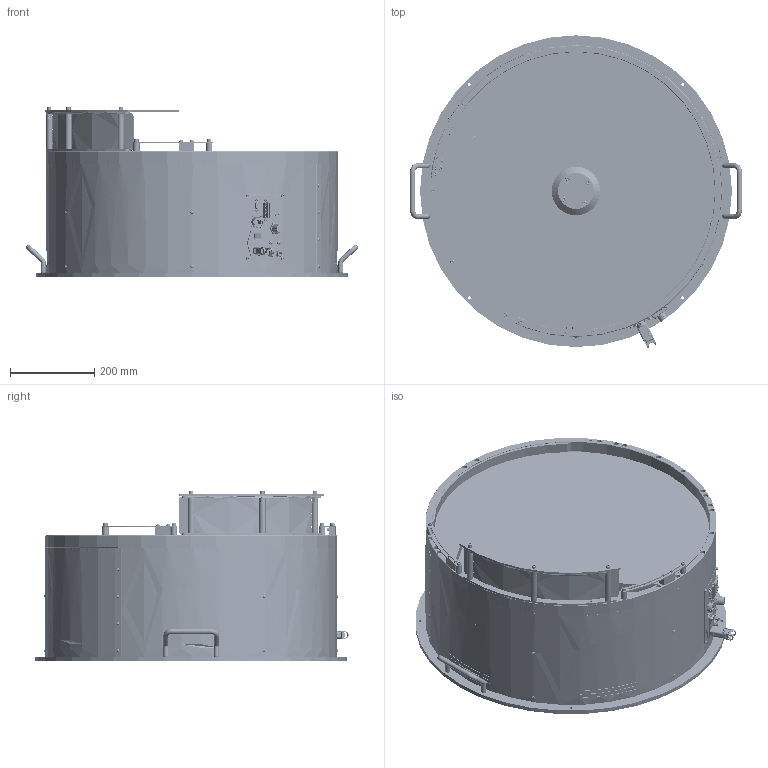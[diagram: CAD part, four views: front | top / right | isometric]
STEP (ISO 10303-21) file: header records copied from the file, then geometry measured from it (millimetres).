
FILE_DESCRIPTION (( 'STEP AP214' ), '1' );
FILE_NAME ('GM000215_FB650C V2.2.STEP', '2023-09-18T15:30:00', ( '' ), ( '' ), 'SwSTEP 2.0', 'SolidWorks 2022', '' );
FILE_SCHEMA (( 'AUTOMOTIVE_DESIGN' ));
Length unit declared in the file: millimetre
Products named in the file (89): PD006078; CM000037; PD001120; CM000050; CM000001; Copia di CE000325^CE000461; PD001356; CE000005; CE000327; Copia di 43025-1600^CE000463; PD006074; CM000170; CM000642; CE000276; Copia di connector_a-ds_25_pp-f^CE000463; PD001654; CM000025; PD000043; CE000078; Copia di 43025-0600^CE000461; CM000686_001; PD005831; PD001103; Copia di 39-01-2045^CE000326; CM000008_002; CM000044; CE000322; PD006076; CM000686_002; CM000027; CM000919; PD006077; CM000086; CM000941; CM000039; GM000215_FB650C V2.2; PD001102; CM000099; CM000031; PD002021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
Assembly tree (195 placements, depth 3):
  CM000919
  CM000941
  GM000215_FB650C V2.2
    CM000032  x4
    CM000048  x16
    CM000031  x9
    CM000050  x3
    CM000170  x6
    CM000166  x8
    CM000642  x4
    CM000035  x4
    CM000027  x4
    CM000086  x5
    CM000051  x4
    CM000044
    CM000025  x4
    CM000043  x2
    CM000026  x8
    CM000024  x8
    CM000006  x4
    CM000091
    CM000037  x3
    CM000021  x3
    CM000039  x3
    CM001243  x2
    CM000015  x2
      CM000015_001
      CM000015_002
    CM000424
    CM000099
    CE000327
      Copia di CE000327^CE000327
      Copia di 39-01-2025^CE000327
    CE000326
      Copia di Led RDY_FLT^CE000326
      Copia di 39-01-2045^CE000326
    CE000322
      Copia di 2 - Copia^CE000322  x4
    CE000461
      Copia di CE000325^CE000461
      Copia di 43025-0600^CE000461
      Copia di Guaina^CE000461
    CE000463
      Copia di connector_a-ds_25_pp-f^CE000463
      Copia di Connettore te 2 poli - Copia^CE000463
      Copia di 39-01-2025^CE000463
      Copia di 43025-1600^CE000463
      Copia di Guaina^CE000463
    PD001096
    CM000001  x2
    PD006078
    PD001440  x6
    PD006077
    PD006073  x2
    PD001654
    PD000709
    PD000032
    CE000078
    PD001102
    PD001103
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Bounding box: 787.87 x 743.89 x 402.5 mm (x, y, z)
Volume: 10688327.5 mm3; surface area: 4368239.9 mm2
Topology: 202 solids, 221 shells, 11943 faces, 30856 edges, 19922 vertices
Faces by surface type: plane 5933, cylinder 2911, bspline 1580, cone 1105, torus 385, sphere 29
Entity records: 492437 total; most frequent: CARTESIAN_POINT 220476, ORIENTED_EDGE 48968, DIRECTION 37410, EDGE_CURVE 24686, VERTEX_POINT 16409, AXIS2_PLACEMENT_3D 12759, LINE 11892, VECTOR 11892
